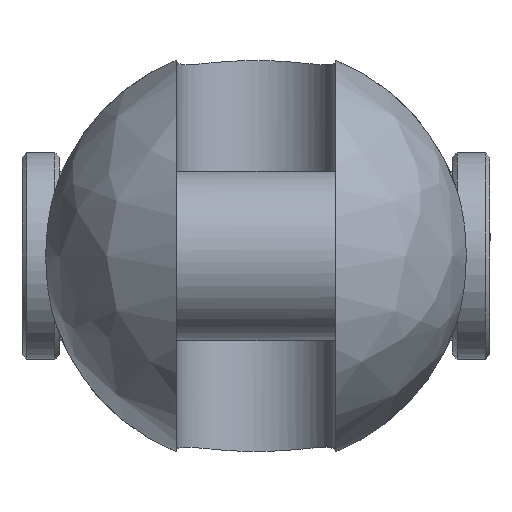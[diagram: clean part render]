
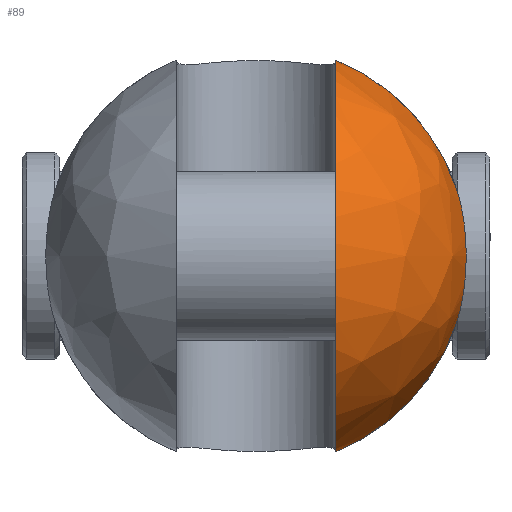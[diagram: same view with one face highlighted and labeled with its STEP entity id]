
A CAD part, left-side view. The second image highlights one B-rep face of the part: STEP entity #89.
In plain terms, the highlighted free-form (B-spline) face has degree [2, 2] with [9, 5] control points.
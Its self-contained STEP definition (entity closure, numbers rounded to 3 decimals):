
#89=ADVANCED_FACE('',(#164),#1306,.T.);
#164=FACE_OUTER_BOUND('',#249,.T.);
#249=EDGE_LOOP('',(#583,#584,#585,#586));
#583=ORIENTED_EDGE('',*,*,#811,.T.);
#584=ORIENTED_EDGE('',*,*,#833,.F.);
#585=ORIENTED_EDGE('',*,*,#843,.T.);
#586=ORIENTED_EDGE('',*,*,#827,.F.);
#811=EDGE_CURVE('',#1192,#1191,#1045,.T.);
#827=EDGE_CURVE('',#1192,#1204,#1055,.T.);
#833=EDGE_CURVE('',#1211,#1191,#1056,.T.);
#843=EDGE_CURVE('',#1211,#1204,#959,.T.);
#959=B_SPLINE_CURVE_WITH_KNOTS('',3,(#3064,#3065,#3066,#3067,#3068,#3069,
#3070,#3071,#3072,#3073,#3074,#3075,#3076,#3077),.UNSPECIFIED.,.F.,.F.,
(4,2,2,2,2,2,4),(0.,0.959,4.487,8.014,
11.541,15.068,16.028),.UNSPECIFIED.);
#1045=(
BOUNDED_CURVE()
B_SPLINE_CURVE(2,(#2912,#2913,#2914,#2915,#2916),.UNSPECIFIED.,.F.,.F.)
B_SPLINE_CURVE_WITH_KNOTS((3,2,3),(-65.448,-32.724,
0.),.UNSPECIFIED.)
CURVE()
GEOMETRIC_REPRESENTATION_ITEM()
RATIONAL_B_SPLINE_CURVE((1.,0.707,1.,0.707,1.))
REPRESENTATION_ITEM('')
);
#1055=(
BOUNDED_CURVE()
B_SPLINE_CURVE(2,(#2990,#2991,#2992),.UNSPECIFIED.,.F.,.F.)
B_SPLINE_CURVE_WITH_KNOTS((3,3),(0.,19.159),.UNSPECIFIED.)
CURVE()
GEOMETRIC_REPRESENTATION_ITEM()
RATIONAL_B_SPLINE_CURVE((1.,0.911,1.))
REPRESENTATION_ITEM('')
);
#1056=(
BOUNDED_CURVE()
B_SPLINE_CURVE(2,(#3019,#3020,#3021),.UNSPECIFIED.,.F.,.F.)
B_SPLINE_CURVE_WITH_KNOTS((3,3),(0.,19.159),.UNSPECIFIED.)
CURVE()
GEOMETRIC_REPRESENTATION_ITEM()
RATIONAL_B_SPLINE_CURVE((1.,0.911,1.))
REPRESENTATION_ITEM('')
);
#1191=VERTEX_POINT('',#2837);
#1192=VERTEX_POINT('',#2838);
#1204=VERTEX_POINT('',#2850);
#1211=VERTEX_POINT('',#2857);
#1306=(
BOUNDED_SURFACE()
B_SPLINE_SURFACE(2,2,((#2445,#2446,#2447,#2448,#2449),(#2450,#2451,#2452,
#2453,#2454),(#2455,#2456,#2457,#2458,#2459),(#2460,#2461,#2462,#2463,#2464),
(#2465,#2466,#2467,#2468,#2469),(#2470,#2471,#2472,#2473,#2474),(#2475,
#2476,#2477,#2478,#2479),(#2480,#2481,#2482,#2483,#2484),(#2485,#2486,#2487,
#2488,#2489)),.UNSPECIFIED.,.T.,.F.,.F.)
B_SPLINE_SURFACE_WITH_KNOTS((3,2,2,2,3),(3,2,3),(0.,35.343,70.686,
106.029,141.372),(0.,35.343,70.686),
 .UNSPECIFIED.)
GEOMETRIC_REPRESENTATION_ITEM()
RATIONAL_B_SPLINE_SURFACE(((1.,0.707,1.,0.707,1.),
(0.707,0.5,0.707,0.5,0.707),(1.,0.707,
1.,0.707,1.),(0.707,0.5,0.707,0.5,0.707),
(1.,0.707,1.,0.707,1.),(0.707,0.5,0.707,
0.5,0.707),(1.,0.707,1.,0.707,1.),(0.707,
0.5,0.707,0.5,0.707),(1.,0.707,1.,0.707,
1.)))
REPRESENTATION_ITEM('')
SURFACE()
);
#2445=CARTESIAN_POINT('',(-32.,0.,0.));
#2446=CARTESIAN_POINT('',(-32.,22.5,0.));
#2447=CARTESIAN_POINT('',(-9.5,22.5,0.));
#2448=CARTESIAN_POINT('',(13.,22.5,0.));
#2449=CARTESIAN_POINT('',(13.,0.,0.));
#2450=CARTESIAN_POINT('',(-32.,0.,0.));
#2451=CARTESIAN_POINT('',(-32.,22.5,22.5));
#2452=CARTESIAN_POINT('',(-9.5,22.5,22.5));
#2453=CARTESIAN_POINT('',(13.,22.5,22.5));
#2454=CARTESIAN_POINT('',(13.,0.,0.));
#2455=CARTESIAN_POINT('',(-32.,0.,0.));
#2456=CARTESIAN_POINT('',(-32.,0.,22.5));
#2457=CARTESIAN_POINT('',(-9.5,0.,22.5));
#2458=CARTESIAN_POINT('',(13.,0.,22.5));
#2459=CARTESIAN_POINT('',(13.,0.,0.));
#2460=CARTESIAN_POINT('',(-32.,0.,0.));
#2461=CARTESIAN_POINT('',(-32.,-22.5,22.5));
#2462=CARTESIAN_POINT('',(-9.5,-22.5,22.5));
#2463=CARTESIAN_POINT('',(13.,-22.5,22.5));
#2464=CARTESIAN_POINT('',(13.,0.,0.));
#2465=CARTESIAN_POINT('',(-32.,0.,0.));
#2466=CARTESIAN_POINT('',(-32.,-22.5,0.));
#2467=CARTESIAN_POINT('',(-9.5,-22.5,0.));
#2468=CARTESIAN_POINT('',(13.,-22.5,0.));
#2469=CARTESIAN_POINT('',(13.,0.,0.));
#2470=CARTESIAN_POINT('',(-32.,0.,0.));
#2471=CARTESIAN_POINT('',(-32.,-22.5,-22.5));
#2472=CARTESIAN_POINT('',(-9.5,-22.5,-22.5));
#2473=CARTESIAN_POINT('',(13.,-22.5,-22.5));
#2474=CARTESIAN_POINT('',(13.,0.,0.));
#2475=CARTESIAN_POINT('',(-32.,0.,0.));
#2476=CARTESIAN_POINT('',(-32.,0.,-22.5));
#2477=CARTESIAN_POINT('',(-9.5,0.,-22.5));
#2478=CARTESIAN_POINT('',(13.,0.,-22.5));
#2479=CARTESIAN_POINT('',(13.,0.,0.));
#2480=CARTESIAN_POINT('',(-32.,0.,0.));
#2481=CARTESIAN_POINT('',(-32.,22.5,-22.5));
#2482=CARTESIAN_POINT('',(-9.5,22.5,-22.5));
#2483=CARTESIAN_POINT('',(13.,22.5,-22.5));
#2484=CARTESIAN_POINT('',(13.,0.,0.));
#2485=CARTESIAN_POINT('',(-32.,0.,0.));
#2486=CARTESIAN_POINT('',(-32.,22.5,0.));
#2487=CARTESIAN_POINT('',(-9.5,22.5,0.));
#2488=CARTESIAN_POINT('',(13.,22.5,0.));
#2489=CARTESIAN_POINT('',(13.,0.,0.));
#2837=CARTESIAN_POINT('',(-9.5,-8.5,-20.833));
#2838=CARTESIAN_POINT('',(-9.5,-8.5,20.833));
#2850=CARTESIAN_POINT('',(-9.5,-21.272,7.331));
#2857=CARTESIAN_POINT('',(-9.5,-21.272,-7.331));
#2912=CARTESIAN_POINT('',(-9.5,-8.5,20.833));
#2913=CARTESIAN_POINT('',(-30.333,-8.5,20.833));
#2914=CARTESIAN_POINT('',(-30.333,-8.5,0.));
#2915=CARTESIAN_POINT('',(-30.333,-8.5,-20.833));
#2916=CARTESIAN_POINT('',(-9.5,-8.5,-20.833));
#2990=CARTESIAN_POINT('',(-9.5,-8.5,20.833));
#2991=CARTESIAN_POINT('',(-9.5,-17.947,16.978));
#2992=CARTESIAN_POINT('',(-9.5,-21.272,7.331));
#3019=CARTESIAN_POINT('',(-9.5,-21.272,-7.331));
#3020=CARTESIAN_POINT('',(-9.5,-17.947,-16.978));
#3021=CARTESIAN_POINT('',(-9.5,-8.5,-20.833));
#3064=CARTESIAN_POINT('',(-9.5,-21.272,-7.331));
#3065=CARTESIAN_POINT('',(-9.685,-21.355,-7.091));
#3066=CARTESIAN_POINT('',(-9.86,-21.432,-6.846));
#3067=CARTESIAN_POINT('',(-10.62,-21.768,-5.692));
#3068=CARTESIAN_POINT('',(-11.143,-21.994,-4.611));
#3069=CARTESIAN_POINT('',(-11.833,-22.29,-2.325));
#3070=CARTESIAN_POINT('',(-12.,-22.361,-1.119));
#3071=CARTESIAN_POINT('',(-12.,-22.361,1.119));
#3072=CARTESIAN_POINT('',(-11.833,-22.29,2.325));
#3073=CARTESIAN_POINT('',(-11.143,-21.994,4.611));
#3074=CARTESIAN_POINT('',(-10.62,-21.768,5.692));
#3075=CARTESIAN_POINT('',(-9.86,-21.432,6.846));
#3076=CARTESIAN_POINT('',(-9.685,-21.355,7.091));
#3077=CARTESIAN_POINT('',(-9.5,-21.272,7.331));
